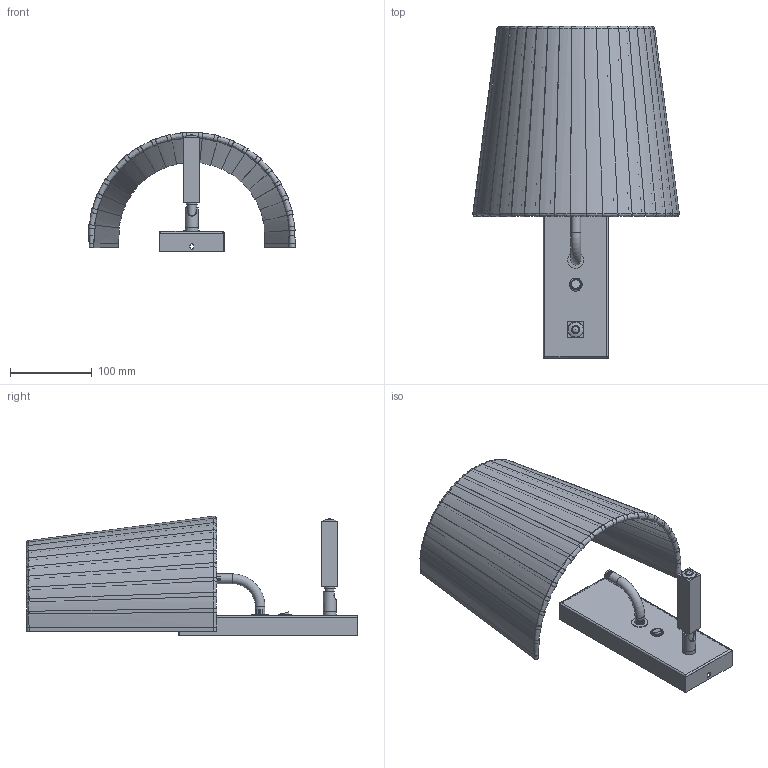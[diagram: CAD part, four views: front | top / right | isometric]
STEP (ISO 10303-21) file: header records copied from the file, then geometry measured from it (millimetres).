
FILE_DESCRIPTION( ( 'STEP AP203' ), '1' );
FILE_NAME( '//srvbf/BF Disegni/BETTY/BETTY-A Applique 3D.stp', '2020-10-16T13:45:36', ( ' ' ), ( ' ' ), 'XStep 1.0', ' ', ' ' );
FILE_SCHEMA( ( 'CONFIG_CONTROL_DESIGN) ( )' ) );
Length unit declared in the file: metre
Products named in the file (47): Assem1; 1; 2; 3; 4; 5; 6; 7; 8; 9; 10; 11; 12; 13; 14; 15; 16; 17; 18; 19; 20; 21; 22; 23; 24; 25; 26; 27; 28; 29; 30; 31; 32; 33; 34; 35; 36; 37; 38; 39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
Bounding box: 253.46 x 406.99 x 146.83 mm (x, y, z)
Volume: 613220.2 mm3; surface area: 1142371.9 mm2
Topology: 92 solids, 92 shells, 1180 faces, 2456 edges, 1480 vertices
Faces by surface type: bspline 356, cone 288, plane 264, cylinder 260, torus 10, sphere 2
Full cylindrical faces by diameter (mm): 4 x16, 7 x2, 8 x6, 9 x52, 9.8 x2, 10 x26, 10.5 x2, 10.985 x22, 11 x2, 11.503 x2, 12 x10, 13 x2, 13.4 x2, 14.985 x52, 16 x6, 18.143 x2, 20 x4
Entity records: 30869 total; most frequent: CARTESIAN_POINT 18200, ORIENTED_EDGE 1920, DIRECTION 1855, EDGE_CURVE 960, EDGE_LOOP 916, AXIS2_PLACEMENT_3D 784, VERTEX_POINT 729, FACE_OUTER_BOUND 701
